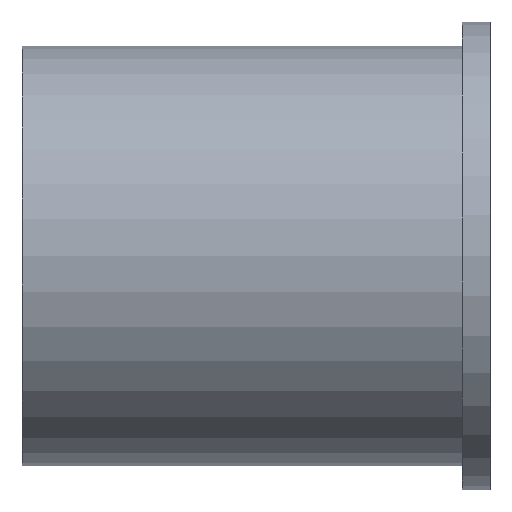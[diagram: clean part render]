
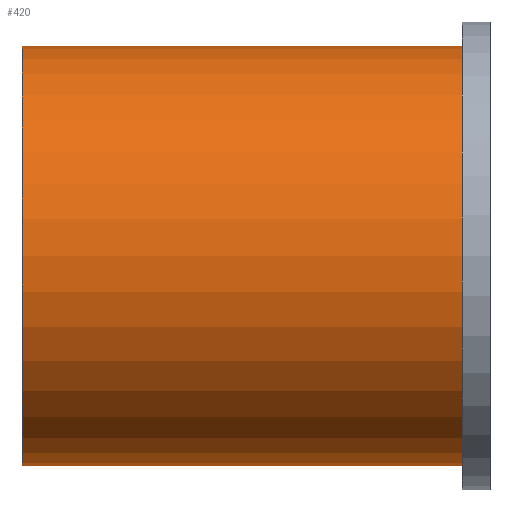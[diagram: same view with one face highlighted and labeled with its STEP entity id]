
A CAD part, top view. The second image highlights one B-rep face of the part: STEP entity #420.
In plain terms, the highlighted cylindrical face has radius 15.25 mm (diameter 30.5 mm), a partial arc.
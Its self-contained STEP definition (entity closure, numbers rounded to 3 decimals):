
#10=CARTESIAN_POINT('',(-176.627,292.117,0.));
#20=DIRECTION('',(-1.,0.,0.));
#30=DIRECTION('',(0.,-1.,-0.));
#40=AXIS2_PLACEMENT_3D('',#10,#20,#30);
#50=CYLINDRICAL_SURFACE('',#40,15.25);
#60=CARTESIAN_POINT('',(-176.627,276.867,0.));
#70=DIRECTION('',(-1.,0.,0.));
#80=VECTOR('',#70,1.);
#90=LINE('',#60,#80);
#100=CARTESIAN_POINT('',(-160.627,276.867,0.));
#110=VERTEX_POINT('',#100);
#120=CARTESIAN_POINT('',(-192.627,276.867,0.));
#130=VERTEX_POINT('',#120);
#140=EDGE_CURVE('',#110,#130,#90,.T.);
#150=ORIENTED_EDGE('',*,*,#140,.F.);
#160=CARTESIAN_POINT('',(-192.627,292.117,0.));
#170=DIRECTION('',(-1.,0.,0.));
#180=DIRECTION('',(0.,1.,0.));
#190=AXIS2_PLACEMENT_3D('',#160,#170,#180);
#200=CIRCLE('',#190,15.25);
#210=CARTESIAN_POINT('',(-192.627,307.367,0.));
#220=VERTEX_POINT('',#210);
#230=EDGE_CURVE('',#130,#220,#200,.T.);
#240=ORIENTED_EDGE('',*,*,#230,.F.);
#250=CARTESIAN_POINT('',(-176.627,307.367,0.));
#260=DIRECTION('',(-1.,0.,0.));
#270=VECTOR('',#260,1.);
#280=LINE('',#250,#270);
#290=CARTESIAN_POINT('',(-160.627,307.367,0.));
#300=VERTEX_POINT('',#290);
#310=EDGE_CURVE('',#300,#220,#280,.T.);
#320=ORIENTED_EDGE('',*,*,#310,.T.);
#330=CARTESIAN_POINT('',(-160.627,292.117,0.));
#340=DIRECTION('',(-1.,0.,0.));
#350=DIRECTION('',(0.,1.,0.));
#360=AXIS2_PLACEMENT_3D('',#330,#340,#350);
#370=CIRCLE('',#360,15.25);
#380=EDGE_CURVE('',#110,#300,#370,.T.);
#390=ORIENTED_EDGE('',*,*,#380,.T.);
#400=EDGE_LOOP('',(#390,#320,#240,#150));
#410=FACE_OUTER_BOUND('',#400,.T.);
#420=ADVANCED_FACE('',(#410),#50,.T.);
